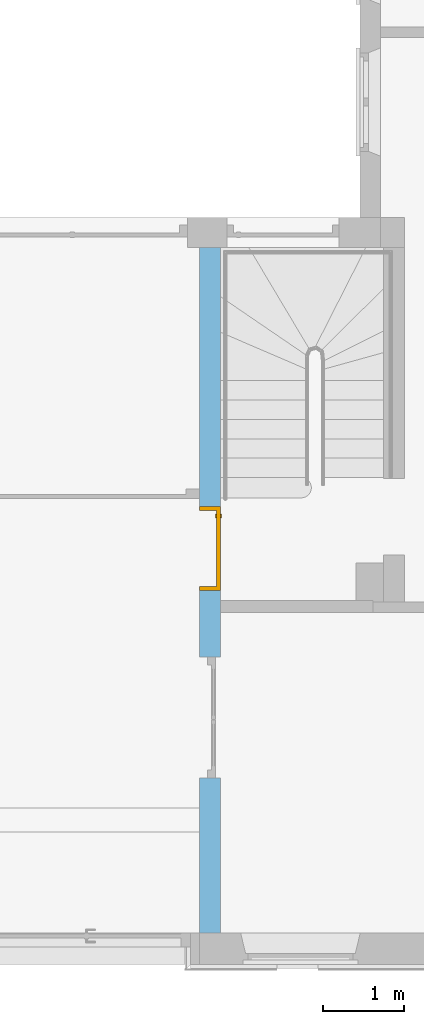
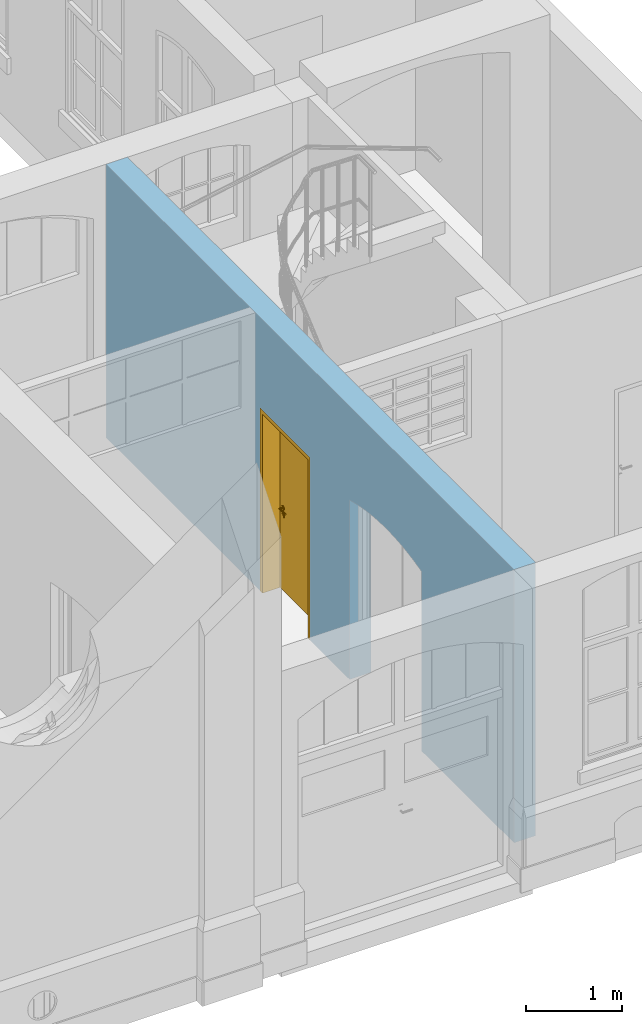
"""IFC4 building model written with IfcOpenShell, lengths in metres."""

from ifc_helpers import new_model, entity, si_unit, converted_unit, derived_unit, frame, frame_2d, origin, origin_with_axes, place, context, subcontext, project, spatial, polyline, rectangle, outline, extrude, faceted_brep, source, transform, mapped, material, layer, layer_set, layer_usage, type_object, element, fill, save


model = new_model("IFC4")

# Units and contexts
model_context = context("Model", 3, precision=1e-05, world=origin())
body_context = subcontext(model_context, "Body", "Model", "MODEL_VIEW")
ifc_project = project(units=[si_unit("LENGTHUNIT", "METRE"), si_unit("AREAUNIT", "SQUARE_METRE"), si_unit("VOLUMEUNIT", "CUBIC_METRE"), si_unit("MASSUNIT", "GRAM", prefix="KILO"), converted_unit("PLANEANGLEUNIT", "DEGREE", entity("IfcPlaneAngleMeasure", 0.0174532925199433), si_unit("PLANEANGLEUNIT", "RADIAN"), dimensions=[0, 0, 0, 0, 0, 0, 0]), derived_unit("THERMALTRANSMITTANCEUNIT", [(si_unit("POWERUNIT", "WATT"), 1), (si_unit("THERMODYNAMICTEMPERATUREUNIT", "KELVIN"), -1), (si_unit("LENGTHUNIT", "METRE"), -2)]), derived_unit("VOLUMETRICFLOWRATEUNIT", [(si_unit("LENGTHUNIT", "METRE"), 3), (converted_unit("TIMEUNIT", "hour", entity("IfcTimeMeasure", 3600.0), si_unit("TIMEUNIT", "SECOND"), dimensions=[0, 0, 1, 0, 0, 0, 0]), -1), (si_unit("LENGTHUNIT", "METRE"), -1)])], contexts=[model_context])

# Building, storeys
building_placement = place(None, origin())
building = spatial("IfcBuilding", under=ifc_project, at=building_placement, Name="Bestandsgebäude A - Sporthalle / Wohnhaus (TB 100-499)   ANPASSEN !!!", CompositionType="ELEMENT")
storey_1_placement = place(building_placement, origin())
storey_1 = spatial("IfcBuildingStorey", under=building, at=storey_1_placement, Name="Geb. A Erdgeschoss (TB 200-249)", CompositionType="ELEMENT", Elevation=0.0)
storey_2_placement = place(storey_1_placement, origin())
storey_2 = spatial("IfcBuildingStorey", under=storey_1, at=storey_2_placement, Name="Architektur (TB 200-209)", CompositionType="PARTIAL")

# Wall, openings, door
ifc_material = material(Name="masonry")
ifc_layer = layer(ifc_material, 0.26)
ifc_layer_set = layer_set([ifc_layer])
ifc_layer_usage = layer_usage(ifc_layer_set, "AXIS2", "POSITIVE", 0.0)
wall_placement = place(storey_2_placement, frame((-5.48, 8.88, 0.0), z_axis=(0.0, 0.0, 1.0), x_axis=(0.0, -1.0, 0.0)))
wall = element("IfcWall", 1, at=wall_placement, inside=storey_2, material=ifc_layer_usage, Name="masonry load-bearing", PredefinedType="USERDEFINED", context=body_context, shape_type="SweptSolid", body=[
    extrude(rectangle(XDim=8.49, YDim=0.26, at=frame_2d((4.245, 0.13), x_axis=(1.0, 0.0))), origin_with_axes(), (0.0, 0.0, 1.0), 3.47),
])
opening_1_placement = place(wall_placement, frame((3.21, 0.0, 0.0), z_axis=(0.0, 1.0, 0.0), x_axis=(0.0, 0.0, 1.0)))
opening_1 = element("IfcOpeningElement", 2, at=opening_1_placement, cuts=wall, Name="Door opening", PredefinedType="OPENING", context=body_context, shape_type="SweptSolid", body=[
    extrude(outline(polyline([(2.32, 1.04), (2.32, 0.0), (0.0, 0.0), (0.0, 1.04), (2.32, 1.04)])), origin_with_axes(), (0.0, 0.0, 1.0), 0.26),
])
opening_2_placement = place(wall_placement, frame((5.07, 0.0, 0.0), z_axis=(0.0, 1.0, 0.0), x_axis=(0.0, 0.0, 1.0)))
element("IfcOpeningElement", 3, at=opening_2_placement, cuts=wall, Name="Door opening", PredefinedType="OPENING", context=body_context, shape_type="SweptSolid", body=[
    extrude(outline(polyline([(2.28, 1.5), (2.29282303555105, 1.45106226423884), (2.30477921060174, 1.40190555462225), (2.31586479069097, 1.35254522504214), (2.32607631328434, 1.30299669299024), (2.33541058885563, 1.25327543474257), (2.34386470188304, 1.20339698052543), (2.35143601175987, 1.1533769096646), (2.35812215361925, 1.10323084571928), (2.36392103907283, 1.05297445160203), (2.36883085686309, 1.00262342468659), (2.37285007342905, 0.952193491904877), (2.3759774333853, 0.901700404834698), (2.37821195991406, 0.851159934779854), (2.37955295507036, 0.800587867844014), (2.38, 0.75), (2.37955295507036, 0.699412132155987), (2.37821195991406, 0.648840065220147), (2.3759774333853, 0.598299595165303), (2.37285007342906, 0.547806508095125), (2.36883085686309, 0.497376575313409), (2.36392103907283, 0.447025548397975), (2.35812215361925, 0.396769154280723), (2.35143601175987, 0.346623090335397), (2.34386470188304, 0.296603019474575), (2.33541058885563, 0.246724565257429), (2.32607631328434, 0.197003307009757), (2.31586479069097, 0.147454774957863), (2.30477921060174, 0.098094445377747), (2.29282303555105, 0.0489377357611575), (2.28, 0.0), (0.0, 0.0), (0.0, 1.5), (2.28, 1.5)])), origin_with_axes(), (0.0, 0.0, 1.0), 0.26),
])
door_type = type_object("IfcDoorType", Name="door", OperationType="SINGLE_SWING_RIGHT", ParameterTakesPrecedence=False, PredefinedType="DOOR")
shared_shape = source(origin_with_axes(), body_context, "Body", "Brep", [
    faceted_brep([(0.0, 0.260000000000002, 2.32), (0.0, 0.260000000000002, 0.0), (0.0500000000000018, 0.260000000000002, 0.0), (0.0500000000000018, 0.260000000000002, 2.32), (0.0, 0.0, 0.0), (0.0, 0.0, 2.32), (0.0500000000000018, 0.0, 2.32), (0.0500000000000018, 0.0, 0.0)], [[[0, 1, 2, 3]], [[4, 5, 6, 7]], [[1, 0, 5, 4]], [[2, 1, 4, 7]], [[3, 2, 7, 6]], [[0, 3, 6, 5]]], orient=[[False], [False], [False], [False], [False], [False]]),
    faceted_brep([(0.990000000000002, 0.260000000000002, 2.32), (0.990000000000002, 0.260000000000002, 0.0), (1.04, 0.260000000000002, 0.0), (1.04, 0.260000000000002, 2.32), (0.990000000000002, 0.0, 0.0), (0.990000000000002, 0.0, 2.32), (1.04, 0.0, 2.32), (1.04, 0.0, 0.0)], [[[0, 1, 2, 3]], [[4, 5, 6, 7]], [[1, 0, 5, 4]], [[2, 1, 4, 7]], [[3, 2, 7, 6]], [[0, 3, 6, 5]]], orient=[[False], [False], [False], [False], [False], [False]]),
    faceted_brep([(0.0500000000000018, 0.260000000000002, 2.32), (0.0500000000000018, 0.260000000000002, 2.27), (0.990000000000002, 0.260000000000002, 2.27), (0.990000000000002, 0.260000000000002, 2.32), (0.0500000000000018, 0.0, 2.27), (0.0500000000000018, 0.0, 2.32), (0.990000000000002, 0.0, 2.32), (0.990000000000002, 0.0, 2.27)], [[[0, 1, 2, 3]], [[4, 5, 6, 7]], [[1, 0, 5, 4]], [[2, 1, 4, 7]], [[3, 2, 7, 6]], [[0, 3, 6, 5]]], orient=[[False], [False], [False], [False], [False], [False]]),
    faceted_brep([(0.0500000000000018, 0.260000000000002, 2.27), (0.0500000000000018, 0.260000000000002, 0.0), (0.990000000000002, 0.260000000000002, 0.0), (0.990000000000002, 0.260000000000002, 2.27), (0.0500000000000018, 0.210000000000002, 0.0), (0.0500000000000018, 0.210000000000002, 2.27), (0.990000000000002, 0.210000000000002, 2.27), (0.990000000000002, 0.210000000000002, 0.0)], [[[0, 1, 2, 3]], [[4, 5, 6, 7]], [[1, 0, 5, 4]], [[2, 1, 4, 7]], [[3, 2, 7, 6]], [[0, 3, 6, 5]]], orient=[[False], [False], [False], [False], [False], [False]]),
    faceted_brep([(0.138815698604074, 0.210000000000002, 0.93625), (0.142500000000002, 0.210000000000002, 0.95), (0.138815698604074, 0.210000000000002, 0.96375), (0.128750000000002, 0.210000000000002, 0.973815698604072), (0.115000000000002, 0.210000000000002, 0.9775), (0.101250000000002, 0.210000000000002, 0.973815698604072), (0.0911843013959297, 0.210000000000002, 0.96375), (0.0875000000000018, 0.210000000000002, 0.95), (0.0911843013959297, 0.210000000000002, 0.93625), (0.101250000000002, 0.210000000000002, 0.926184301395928), (0.115000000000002, 0.210000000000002, 0.9225), (0.128750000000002, 0.210000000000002, 0.926184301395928), (0.142500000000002, 0.197500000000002, 0.95), (0.138815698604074, 0.197500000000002, 0.93625), (0.128750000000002, 0.197500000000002, 0.926184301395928), (0.115000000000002, 0.197500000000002, 0.9225), (0.101250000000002, 0.197500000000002, 0.926184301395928), (0.0911843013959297, 0.197500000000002, 0.93625), (0.0875000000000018, 0.197500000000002, 0.95), (0.0911843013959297, 0.197500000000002, 0.96375), (0.101250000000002, 0.197500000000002, 0.973815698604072), (0.115000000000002, 0.197500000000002, 0.9775), (0.128750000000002, 0.197500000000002, 0.973815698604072), (0.138815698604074, 0.197500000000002, 0.96375)], [[[0, 1, 2, 3, 4, 5, 6, 7, 8, 9, 10, 11]], [[12, 13, 14, 15, 16, 17, 18, 19, 20, 21, 22, 23]], [[1, 0, 13, 12]], [[2, 1, 12, 23]], [[3, 2, 23, 22]], [[4, 3, 22, 21]], [[5, 4, 21, 20]], [[6, 5, 20, 19]], [[7, 6, 19, 18]], [[8, 7, 18, 17]], [[9, 8, 17, 16]], [[10, 9, 16, 15]], [[11, 10, 15, 14]], [[0, 11, 14, 13]]], orient=[[False], [False], [False], [False], [False], [False], [False], [False], [False], [False], [False], [False], [False], [False]]),
    faceted_brep([(0.138815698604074, 0.210000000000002, 1.03625), (0.142500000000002, 0.210000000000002, 1.05), (0.138815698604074, 0.210000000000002, 1.06375), (0.128750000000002, 0.210000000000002, 1.07381569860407), (0.115000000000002, 0.210000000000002, 1.0775), (0.101250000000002, 0.210000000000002, 1.07381569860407), (0.0911843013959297, 0.210000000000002, 1.06375), (0.0875000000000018, 0.210000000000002, 1.05), (0.0911843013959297, 0.210000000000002, 1.03625), (0.101250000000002, 0.210000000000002, 1.02618430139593), (0.115000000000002, 0.210000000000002, 1.0225), (0.128750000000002, 0.210000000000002, 1.02618430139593), (0.142500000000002, 0.197500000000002, 1.05), (0.138815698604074, 0.197500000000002, 1.03625), (0.128750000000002, 0.197500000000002, 1.02618430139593), (0.115000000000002, 0.197500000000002, 1.0225), (0.101250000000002, 0.197500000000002, 1.02618430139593), (0.0911843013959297, 0.197500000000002, 1.03625), (0.0875000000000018, 0.197500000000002, 1.05), (0.0911843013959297, 0.197500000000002, 1.06375), (0.101250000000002, 0.197500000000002, 1.07381569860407), (0.115000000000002, 0.197500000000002, 1.0775), (0.128750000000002, 0.197500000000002, 1.07381569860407), (0.138815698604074, 0.197500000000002, 1.06375)], [[[0, 1, 2, 3, 4, 5, 6, 7, 8, 9, 10, 11]], [[12, 13, 14, 15, 16, 17, 18, 19, 20, 21, 22, 23]], [[1, 0, 13, 12]], [[2, 1, 12, 23]], [[3, 2, 23, 22]], [[4, 3, 22, 21]], [[5, 4, 21, 20]], [[6, 5, 20, 19]], [[7, 6, 19, 18]], [[8, 7, 18, 17]], [[9, 8, 17, 16]], [[10, 9, 16, 15]], [[11, 10, 15, 14]], [[0, 11, 14, 13]]], orient=[[False], [False], [False], [False], [False], [False], [False], [False], [False], [False], [False], [False], [False], [False]]),
    faceted_brep([(0.115000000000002, 0.210000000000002, 1.06), (0.110000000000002, 0.210000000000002, 1.05866025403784), (0.106339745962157, 0.210000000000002, 1.055), (0.105000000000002, 0.210000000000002, 1.05), (0.106339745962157, 0.210000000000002, 1.045), (0.110000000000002, 0.210000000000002, 1.04133974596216), (0.115000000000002, 0.210000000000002, 1.04), (0.120000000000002, 0.210000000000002, 1.04133974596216), (0.123660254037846, 0.210000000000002, 1.045), (0.125000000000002, 0.210000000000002, 1.05), (0.123660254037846, 0.210000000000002, 1.055), (0.120000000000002, 0.210000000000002, 1.05866025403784), (0.115000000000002, 0.170000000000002, 1.06), (0.110000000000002, 0.165000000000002, 1.05866025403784), (0.106339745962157, 0.161339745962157, 1.055), (0.105000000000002, 0.160000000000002, 1.05), (0.106339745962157, 0.161339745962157, 1.045), (0.110000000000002, 0.165000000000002, 1.04133974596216), (0.115000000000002, 0.170000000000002, 1.04), (0.120000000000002, 0.175000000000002, 1.04133974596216), (0.123660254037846, 0.178660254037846, 1.045), (0.125000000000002, 0.180000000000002, 1.05), (0.123660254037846, 0.178660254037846, 1.055), (0.120000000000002, 0.175000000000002, 1.05866025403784), (0.230000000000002, 0.170000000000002, 1.06), (0.230000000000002, 0.175000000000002, 1.05866025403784), (0.230000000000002, 0.178660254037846, 1.055), (0.230000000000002, 0.180000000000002, 1.05), (0.230000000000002, 0.178660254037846, 1.045), (0.230000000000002, 0.175000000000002, 1.04133974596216), (0.230000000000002, 0.170000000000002, 1.04), (0.230000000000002, 0.165000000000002, 1.04133974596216), (0.230000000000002, 0.161339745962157, 1.045), (0.230000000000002, 0.160000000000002, 1.05), (0.230000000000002, 0.161339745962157, 1.055), (0.230000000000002, 0.165000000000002, 1.05866025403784)], [[[0, 1, 2, 3, 4, 5, 6, 7, 8, 9, 10, 11]], [[0, 12, 13, 1]], [[1, 13, 14, 2]], [[2, 14, 15, 3]], [[3, 15, 16, 4]], [[4, 16, 17, 5]], [[5, 17, 18, 6]], [[6, 18, 19, 7]], [[7, 19, 20, 8]], [[8, 20, 21, 9]], [[9, 21, 22, 10]], [[10, 22, 23, 11]], [[11, 23, 12, 0]], [[24, 25, 26, 27, 28, 29, 30, 31, 32, 33, 34, 35]], [[12, 24, 35, 13]], [[13, 35, 34, 14]], [[14, 34, 33, 15]], [[15, 33, 32, 16]], [[16, 32, 31, 17]], [[17, 31, 30, 18]], [[18, 30, 29, 19]], [[19, 29, 28, 20]], [[20, 28, 27, 21]], [[21, 27, 26, 22]], [[22, 26, 25, 23]], [[23, 25, 24, 12]]], orient=[[False], [False], [False], [False], [False], [False], [False], [False], [False], [False], [False], [False], [False], [False], [False], [False], [False], [False], [False], [False], [False], [False], [False], [False], [False], [False]]),
    faceted_brep([(0.138815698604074, 0.260000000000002, 0.93625), (0.128750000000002, 0.260000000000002, 0.926184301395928), (0.115000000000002, 0.260000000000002, 0.9225), (0.101250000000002, 0.260000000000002, 0.926184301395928), (0.0911843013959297, 0.260000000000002, 0.93625), (0.0875000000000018, 0.260000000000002, 0.95), (0.0911843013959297, 0.260000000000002, 0.96375), (0.101250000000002, 0.260000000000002, 0.973815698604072), (0.115000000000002, 0.260000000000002, 0.9775), (0.128750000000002, 0.260000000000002, 0.973815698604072), (0.138815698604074, 0.260000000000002, 0.96375), (0.142500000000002, 0.260000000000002, 0.95), (0.142500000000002, 0.272500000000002, 0.95), (0.138815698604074, 0.272500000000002, 0.96375), (0.128750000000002, 0.272500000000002, 0.973815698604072), (0.115000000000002, 0.272500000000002, 0.9775), (0.101250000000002, 0.272500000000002, 0.973815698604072), (0.0911843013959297, 0.272500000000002, 0.96375), (0.0875000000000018, 0.272500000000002, 0.95), (0.0911843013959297, 0.272500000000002, 0.93625), (0.101250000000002, 0.272500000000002, 0.926184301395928), (0.115000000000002, 0.272500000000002, 0.9225), (0.128750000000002, 0.272500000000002, 0.926184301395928), (0.138815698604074, 0.272500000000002, 0.93625)], [[[0, 1, 2, 3, 4, 5, 6, 7, 8, 9, 10, 11]], [[12, 13, 14, 15, 16, 17, 18, 19, 20, 21, 22, 23]], [[11, 12, 23, 0]], [[10, 13, 12, 11]], [[9, 14, 13, 10]], [[8, 15, 14, 9]], [[7, 16, 15, 8]], [[6, 17, 16, 7]], [[5, 18, 17, 6]], [[4, 19, 18, 5]], [[3, 20, 19, 4]], [[2, 21, 20, 3]], [[1, 22, 21, 2]], [[0, 23, 22, 1]]], orient=[[False], [False], [False], [False], [False], [False], [False], [False], [False], [False], [False], [False], [False], [False]]),
    faceted_brep([(0.138815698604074, 0.260000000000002, 1.03625), (0.128750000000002, 0.260000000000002, 1.02618430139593), (0.115000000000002, 0.260000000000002, 1.0225), (0.101250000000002, 0.260000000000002, 1.02618430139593), (0.0911843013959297, 0.260000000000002, 1.03625), (0.0875000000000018, 0.260000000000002, 1.05), (0.0911843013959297, 0.260000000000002, 1.06375), (0.101250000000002, 0.260000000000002, 1.07381569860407), (0.115000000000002, 0.260000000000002, 1.0775), (0.128750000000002, 0.260000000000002, 1.07381569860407), (0.138815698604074, 0.260000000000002, 1.06375), (0.142500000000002, 0.260000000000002, 1.05), (0.142500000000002, 0.272500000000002, 1.05), (0.138815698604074, 0.272500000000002, 1.06375), (0.128750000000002, 0.272500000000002, 1.07381569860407), (0.115000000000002, 0.272500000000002, 1.0775), (0.101250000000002, 0.272500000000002, 1.07381569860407), (0.0911843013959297, 0.272500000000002, 1.06375), (0.0875000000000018, 0.272500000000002, 1.05), (0.0911843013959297, 0.272500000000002, 1.03625), (0.101250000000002, 0.272500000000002, 1.02618430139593), (0.115000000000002, 0.272500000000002, 1.0225), (0.128750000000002, 0.272500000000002, 1.02618430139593), (0.138815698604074, 0.272500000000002, 1.03625)], [[[0, 1, 2, 3, 4, 5, 6, 7, 8, 9, 10, 11]], [[12, 13, 14, 15, 16, 17, 18, 19, 20, 21, 22, 23]], [[11, 12, 23, 0]], [[10, 13, 12, 11]], [[9, 14, 13, 10]], [[8, 15, 14, 9]], [[7, 16, 15, 8]], [[6, 17, 16, 7]], [[5, 18, 17, 6]], [[4, 19, 18, 5]], [[3, 20, 19, 4]], [[2, 21, 20, 3]], [[1, 22, 21, 2]], [[0, 23, 22, 1]]], orient=[[False], [False], [False], [False], [False], [False], [False], [False], [False], [False], [False], [False], [False], [False]]),
    faceted_brep([(0.115000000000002, 0.260000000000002, 1.06), (0.120000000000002, 0.260000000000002, 1.05866025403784), (0.123660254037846, 0.260000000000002, 1.055), (0.125000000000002, 0.260000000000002, 1.05), (0.123660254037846, 0.260000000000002, 1.045), (0.120000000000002, 0.260000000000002, 1.04133974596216), (0.115000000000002, 0.260000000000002, 1.04), (0.110000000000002, 0.260000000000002, 1.04133974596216), (0.106339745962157, 0.260000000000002, 1.045), (0.105000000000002, 0.260000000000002, 1.05), (0.106339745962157, 0.260000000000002, 1.055), (0.110000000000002, 0.260000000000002, 1.05866025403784), (0.110000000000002, 0.305000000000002, 1.05866025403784), (0.115000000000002, 0.300000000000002, 1.06), (0.106339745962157, 0.308660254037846, 1.055), (0.105000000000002, 0.310000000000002, 1.05), (0.106339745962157, 0.308660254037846, 1.045), (0.110000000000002, 0.305000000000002, 1.04133974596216), (0.115000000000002, 0.300000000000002, 1.04), (0.120000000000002, 0.295000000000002, 1.04133974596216), (0.123660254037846, 0.291339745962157, 1.045), (0.125000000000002, 0.290000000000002, 1.05), (0.123660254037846, 0.291339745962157, 1.055), (0.120000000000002, 0.295000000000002, 1.05866025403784), (0.230000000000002, 0.300000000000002, 1.06), (0.230000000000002, 0.305000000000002, 1.05866025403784), (0.230000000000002, 0.308660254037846, 1.055), (0.230000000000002, 0.310000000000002, 1.05), (0.230000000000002, 0.308660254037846, 1.045), (0.230000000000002, 0.305000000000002, 1.04133974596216), (0.230000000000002, 0.300000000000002, 1.04), (0.230000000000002, 0.295000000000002, 1.04133974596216), (0.230000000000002, 0.291339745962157, 1.045), (0.230000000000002, 0.290000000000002, 1.05), (0.230000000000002, 0.291339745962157, 1.055), (0.230000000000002, 0.295000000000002, 1.05866025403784)], [[[0, 1, 2, 3, 4, 5, 6, 7, 8, 9, 10, 11]], [[0, 11, 12, 13]], [[11, 10, 14, 12]], [[10, 9, 15, 14]], [[9, 8, 16, 15]], [[8, 7, 17, 16]], [[7, 6, 18, 17]], [[6, 5, 19, 18]], [[5, 4, 20, 19]], [[4, 3, 21, 20]], [[3, 2, 22, 21]], [[2, 1, 23, 22]], [[1, 0, 13, 23]], [[24, 25, 26, 27, 28, 29, 30, 31, 32, 33, 34, 35]], [[13, 12, 25, 24]], [[12, 14, 26, 25]], [[14, 15, 27, 26]], [[15, 16, 28, 27]], [[16, 17, 29, 28]], [[17, 18, 30, 29]], [[18, 19, 31, 30]], [[19, 20, 32, 31]], [[20, 21, 33, 32]], [[21, 22, 34, 33]], [[22, 23, 35, 34]], [[23, 13, 24, 35]]], orient=[[False], [False], [False], [False], [False], [False], [False], [False], [False], [False], [False], [False], [False], [False], [False], [False], [False], [False], [False], [False], [False], [False], [False], [False], [False], [False]]),
])
door_placement = place(opening_1_placement, frame((0.0, 0.0, 0.0), z_axis=(1.0, 0.0, 0.0), x_axis=(0.0, 1.0, 0.0)))
door = element("IfcDoor", 4, at=door_placement, inside=storey_2, type_object=door_type, Name="door", OverallHeight=2.32, OverallWidth=1.04, PredefinedType="DOOR", context=body_context, shape_type="MappedRepresentation", body=[
    mapped(shared_shape, transform((0.0, 0.0, 0.0), x_axis=(1.0, 0.0, 0.0), y_axis=(0.0, 1.0, 0.0), z_axis=(0.0, 0.0, 1.0), scale=1.0)),
])
fill(opening_1, door)

save(model, "model.ifc")
